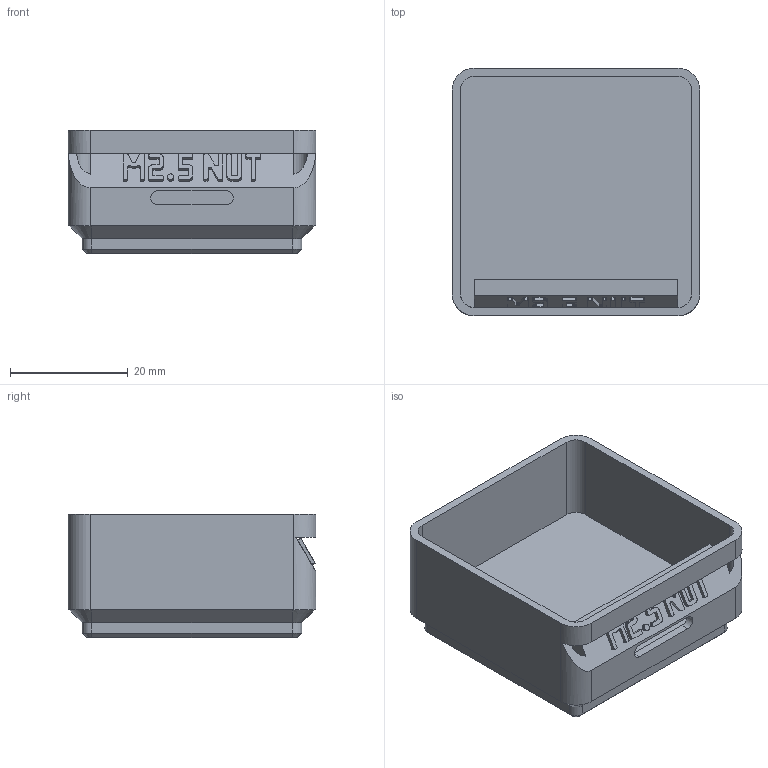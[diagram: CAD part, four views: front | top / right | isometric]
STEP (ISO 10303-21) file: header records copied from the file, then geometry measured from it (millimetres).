
FILE_DESCRIPTION(('Open CASCADE Model'),'2;1');
FILE_NAME('Open CASCADE Shape Model','2026-11-03T17:13:38',('Author'),( 'Open CASCADE'),'Open CASCADE STEP processor 8.0','build123d', 'Unknown');
FILE_SCHEMA(('AUTOMOTIVE_DESIGN { 1 0 10303 214 1 1 1 1 }'));
Length unit declared in the file: millimetre
Products named in the file (1): COMPOUND
Bounding box: 42 x 42 x 21 mm (x, y, z)
Volume: 12853.8 mm3; surface area: 9303.1 mm2
Topology: 1 solids, 1 shells, 592 faces, 1731 edges, 1148 vertices
Faces by surface type: plane 570, cylinder 14, cone 8
Entity records: 40622 total; most frequent: CARTESIAN_POINT 8176, DIRECTION 5249, LINE 3947, VECTOR 3947, ORIENTED_EDGE 3462, PCURVE 3462, DEFINITIONAL_REPRESENTATION 3462, EDGE_CURVE 1731
